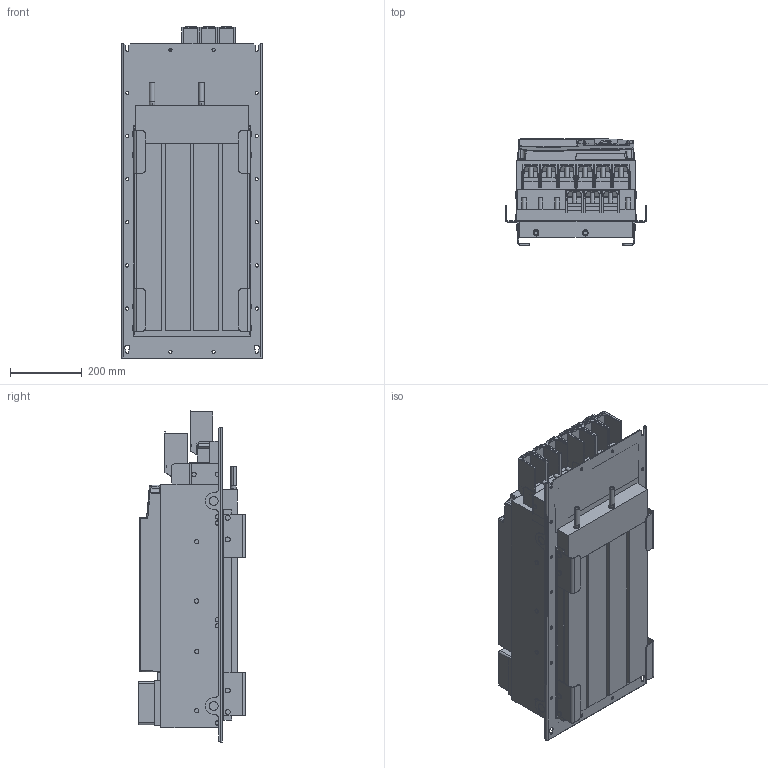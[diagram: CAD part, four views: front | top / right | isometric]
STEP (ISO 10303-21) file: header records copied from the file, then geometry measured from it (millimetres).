
FILE_DESCRIPTION (( 'STEP AP214' ), '1' );
FILE_NAME ('F6-8TW5-A031.STEP', '2021-03-10T13:53:48', ( '' ), ( '' ), 'SwSTEP 2.0', 'SolidWorks 2019', '' );
FILE_SCHEMA (( 'AUTOMOTIVE_DESIGN' ));
Length unit declared in the file: millimetre
Products named in the file (13): 10047771_000_Kundenmodell; 10063199_000; 10063996_000; F6-8TW5-A031; 10040552_000_Kundenmodell; 10059765_000; 10059763_000; 10063180_000; 10063936_000_F6-8 Leistungsteil TW5 (Kundenmodell + BW); 10035736_000_Kundenmodell; 10038044_000_Kundemodell; 10059764_000_Blindabdeckung (Kundenmodell); 10063225_000
Assembly tree (12 placements, depth 4):
  F6-8TW5-A031
    10063936_000_F6-8 Leistungsteil TW5 (Kundenmodell + BW)
      10038044_000_Kundemodell
        10063180_000
      10063996_000
    10040552_000_Kundenmodell
      10047771_000_Kundenmodell
        10063225_000
      10063199_000
    10035736_000_Kundenmodell
      10059764_000_Blindabdeckung (Kundenmodell)
        10059765_000
      10059763_000
Bounding box: 392 x 296.9 x 923.32 mm (x, y, z)
Volume: 64690711.8 mm3; surface area: 2949949.5 mm2
Topology: 6 solids, 30 shells, 3014 faces, 7669 edges, 4751 vertices
Faces by surface type: plane 1566, cylinder 882, bspline 231, sphere 154, cone 104, torus 77
Entity records: 96916 total; most frequent: CARTESIAN_POINT 25374, ORIENTED_EDGE 15116, DIRECTION 14177, EDGE_CURVE 7558, VECTOR 4839, LINE 4839, VERTEX_POINT 4748, AXIS2_PLACEMENT_3D 4669
